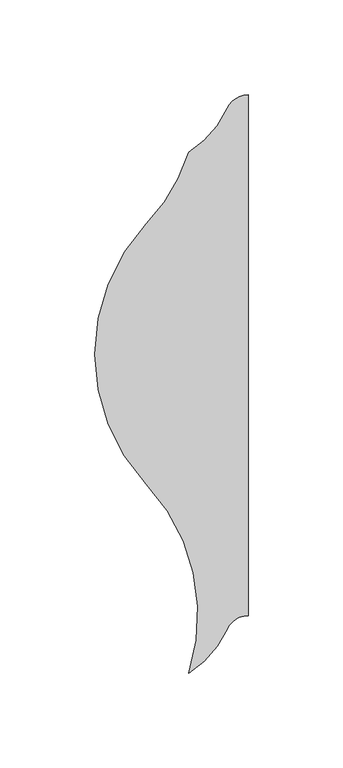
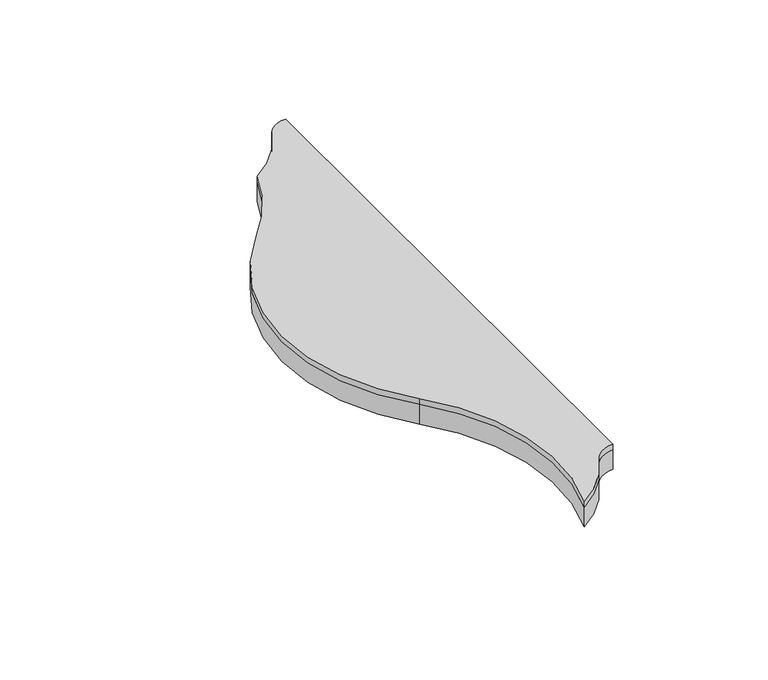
"""IFC4 building model written with IfcOpenShell, lengths in millimetres: proxy geometry, FilzFelt_Fish_Block : Fish Block."""

import ifcopenshell
import ifcopenshell.guid

model = None  # the IFC model being written
_history = None  # IfcOwnerHistory: only IFC2X3 demands one
_inside = {}  # id of a spatial element -> (the spatial element, [elements in it])
_under = {}  # id of a project, library or spatial element -> (it, [spatial elements below it])
_declared = {}  # id of a project -> (the project, [libraries it declares])
_typed = {}  # id of a type object -> (the type object, [elements of that type])
_made_of = {}  # id of a material, layer set ... -> (it, [elements and type objects made of it])


def new_model(schema):
    """Start an empty IFC model of exactly this schema.

    Asked for "IFC4X3", IfcOpenShell would pick the latest addendum, in which some entities
    have other attributes; the version numbers below select the first issue.
    IFC2X3 requires an IfcOwnerHistory on every rooted entity: one is made here for all.
    """
    global model, _history
    if schema == "IFC4X3":
        model = ifcopenshell.file(schema_version=(4, 3, 0, 0))
    else:
        model = ifcopenshell.file(schema=schema)
    _inside.clear()
    _under.clear()
    _declared.clear()
    _typed.clear()
    _made_of.clear()
    _history = None
    if model.schema == "IFC2X3":
        org = make("IfcOrganization", Name="unknown")
        user = make(
            "IfcPersonAndOrganization",
            ThePerson=make("IfcPerson", FamilyName="unknown"),
            TheOrganization=org,
        )
        app = make(
            "IfcApplication",
            ApplicationDeveloper=org,
            Version="unknown",
            ApplicationFullName="unknown",
            ApplicationIdentifier="unknown",
        )
        _history = make(
            "IfcOwnerHistory",
            OwningUser=user,
            OwningApplication=app,
            ChangeAction="ADDED",
            CreationDate=0,
        )
    return model


def make(cls, **values):
    """One entity of the class cls with the attributes given. An attribute that is None is left unset."""
    return model.create_entity(
        cls, **{name: value for name, value in values.items() if value is not None}
    )


def rooted(cls, **values):
    """An entity with a GlobalId (a new one), such as an element, a storey or a relation."""
    return make(cls, GlobalId=ifcopenshell.guid.new(), OwnerHistory=_history, **values)


def si_unit(unit_type, name, prefix=None):
    """IfcSIUnit, for example si_unit("LENGTHUNIT", "METRE", prefix="MILLI")."""
    return make("IfcSIUnit", UnitType=unit_type, Prefix=prefix, Name=name)


def assignment(units):
    """IfcUnitAssignment: the units of a project."""
    return None if units is None else make("IfcUnitAssignment", Units=units)


def point(xyz):
    """IfcCartesianPoint."""
    return None if xyz is None else make("IfcCartesianPoint", Coordinates=xyz)


def direction(xyz):
    """IfcDirection."""
    return None if xyz is None else make("IfcDirection", DirectionRatios=xyz)


def frame(location, z_axis=None, x_axis=None):
    """IfcAxis2Placement3D, a coordinate frame: its origin and axes. An axis left out is left unset."""
    return make(
        "IfcAxis2Placement3D",
        Location=point(location),
        Axis=direction(z_axis),
        RefDirection=direction(x_axis),
    )


def origin():
    """The frame at (0, 0, 0) with its axes left unset."""
    return frame((0.0, 0.0, 0.0))


def place(relative_to, where):
    """IfcLocalPlacement: puts the frame where relative to a parent placement (None: the world)."""
    return make(
        "IfcLocalPlacement", PlacementRelTo=relative_to, RelativePlacement=where
    )


def context(
    kind, dimensions, precision=None, world=None, true_north=None, identifier=None
):
    """IfcGeometricRepresentationContext, for example the 3D "Model" context."""
    return make(
        "IfcGeometricRepresentationContext",
        ContextIdentifier=identifier,
        ContextType=kind,
        CoordinateSpaceDimension=dimensions,
        Precision=precision,
        WorldCoordinateSystem=world,
        TrueNorth=true_north,
    )


def project(units=None, contexts=None):
    """IfcProject with its units and contexts."""
    return rooted(
        "IfcProject",
        Name="project",
        RepresentationContexts=contexts,
        UnitsInContext=assignment(units),
    )


def spatial(cls, under=None, at=None, **own):
    """A site, building, storey or space (cls), placed at a placement, below another one or the project."""
    s = rooted(cls, ObjectPlacement=at, **own)
    if under is not None:
        _under.setdefault(under.id(), (under, []))[1].append(s)
    return s


def polyline(points):
    """IfcPolyline through the points."""
    return make("IfcPolyline", Points=[point(p) for p in points])


def circle_curve(where, radius):
    """IfcCircle in the frame where."""
    return make("IfcCircle", Position=where, Radius=radius)


def shape(context_of_items, identifier, shape_type, items):
    """IfcShapeRepresentation: the items that make up one representation, for example the "Body"."""
    return make(
        "IfcShapeRepresentation",
        ContextOfItems=context_of_items,
        RepresentationIdentifier=identifier,
        RepresentationType=shape_type,
        Items=items,
    )


def source(mapping_origin, context_of_items, identifier, shape_type, items):
    """IfcRepresentationMap: a shape defined once, which mapped items show again and again."""
    return make(
        "IfcRepresentationMap",
        MappingOrigin=mapping_origin,
        MappedRepresentation=shape(context_of_items, identifier, shape_type, items),
    )


def transform(
    local_origin,
    x_axis=None,
    y_axis=None,
    z_axis=None,
    scale=None,
    scale2=None,
    scale3=None,
    uniform=True,
):
    """IfcCartesianTransformationOperator3D, or its non-uniform kind. x_axis, y_axis, z_axis: its Axis1, 2, 3."""
    if uniform:
        return make(
            "IfcCartesianTransformationOperator3D",
            Axis1=direction(x_axis),
            Axis2=direction(y_axis),
            LocalOrigin=point(local_origin),
            Scale=scale,
            Axis3=direction(z_axis),
        )
    return make(
        "IfcCartesianTransformationOperator3DnonUniform",
        Axis1=direction(x_axis),
        Axis2=direction(y_axis),
        LocalOrigin=point(local_origin),
        Scale=scale,
        Axis3=direction(z_axis),
        Scale2=scale2,
        Scale3=scale3,
    )


def mapped(mapping_source, mapping_target):
    """IfcMappedItem: shows the shape of a source again, moved by a transform."""
    return make(
        "IfcMappedItem", MappingSource=mapping_source, MappingTarget=mapping_target
    )


def made_of(thing, what):
    """Note that an element or type object is made of a material, layer set ...; save() writes the relation."""
    if what is not None:
        _made_of.setdefault(what.id(), (what, []))[1].append(thing)
    return thing


def element(
    cls,
    number,
    at=None,
    inside=None,
    cuts=None,
    type_object=None,
    material=None,
    context=None,
    identifier="Body",
    shape_type=None,
    held_by="IfcProductDefinitionShape",
    body=None,
    shapes=None,
    **own,
):
    """One element of the class cls, such as IfcWall. Its Tag is "e" and its number.

    at: its placement. inside: the storey or other place that contains it. cuts: it is an
    opening in that element (IfcRelVoidsElement). A single representation is given by context,
    identifier, shape_type and body (its items); several are given by shapes. held_by: the class
    of the entity that holds the representations. save() writes the other relations.
    """
    e = rooted(cls, Tag="e%d" % number, ObjectPlacement=at, **own)
    if body is not None:
        shapes = [shape(context, identifier, shape_type, body)]
    if shapes is not None:
        e.Representation = make(held_by, Representations=shapes)
    if inside is not None:
        _inside.setdefault(inside.id(), (inside, []))[1].append(e)
    if cuts is not None:
        rooted(
            "IfcRelVoidsElement", RelatingBuildingElement=cuts, RelatedOpeningElement=e
        )
    if type_object is not None:
        _typed.setdefault(type_object.id(), (type_object, []))[1].append(e)
    return made_of(e, material)


def aggregate(whole, parts):
    """IfcRelAggregates: a whole, such as a stair, and the parts it consists of."""
    return rooted("IfcRelAggregates", RelatingObject=whole, RelatedObjects=parts)


def save(model, path):
    """Write the relations noted so far, then the file.

    IfcRelAggregates (storeys below a building ...), IfcRelContainedInSpatialStructure (elements
    in a storey), IfcRelDefinesByType, IfcRelAssociatesMaterial and IfcRelDeclares: one each for
    every whole, place, type object, material and project.
    """
    for whole, parts in _under.values():
        aggregate(whole, parts)
    for where, things in _inside.values():
        rooted(
            "IfcRelContainedInSpatialStructure",
            RelatedElements=things,
            RelatingStructure=where,
        )
    for kind, things in _typed.values():
        rooted("IfcRelDefinesByType", RelatedObjects=things, RelatingType=kind)
    for what, things in _made_of.values():
        rooted("IfcRelAssociatesMaterial", RelatedObjects=things, RelatingMaterial=what)
    for by, libraries in _declared.values():
        rooted("IfcRelDeclares", RelatingContext=by, RelatedDefinitions=libraries)
    model.write(path)


def plane_surface(at):
    """IfcPlane: the flat surface through the origin of the frame at, square to its z axis."""
    return make("IfcPlane", Position=at)


def cylinder_surface(at, radius):
    """IfcCylindricalSurface: all points at the distance radius from the z axis of the frame at."""
    return make("IfcCylindricalSurface", Position=at, Radius=radius)


def revolved_surface(curve, axis_point, axis_direction):
    """IfcSurfaceOfRevolution: the curve turned about the line through axis_point along axis_direction."""
    return make(
        "IfcSurfaceOfRevolution",
        SweptCurve=make("IfcArbitraryOpenProfileDef", ProfileType="CURVE", Curve=curve),
        AxisPosition=make("IfcAxis1Placement", Location=point(axis_point), Axis=direction(axis_direction)),
    )


def advanced_brep(points, edges, surfaces, faces):
    """IfcAdvancedBrep: a solid bounded by faces that lie on surfaces and meet in shared edges.

    An edge is (start, end): straight between two places in points (the first is 0);
    or (start, end, curve); or (start, end, curve, False) where it runs against its curve.
    A face is (place in surfaces, loops), or (place, loops, False) where it looks against
    its surface's normal. A loop lists edges by number (the first is 1), with a minus sign
    where the edge is run from its end to its start. The first loop is the outer one.
    """
    corners = [point(p) for p in points]
    vertices = [make("IfcVertexPoint", VertexGeometry=c) for c in corners]
    made = []
    for start, end, *more in edges:
        made.append(
            make(
                "IfcEdgeCurve",
                EdgeStart=vertices[start],
                EdgeEnd=vertices[end],
                EdgeGeometry=more[0] if more else make("IfcPolyline", Points=[corners[start], corners[end]]),
                SameSense=more[1] if len(more) > 1 else True,
            )
        )
    hull = []
    for where, loops, *sense in faces:
        bounds = []
        for j, loop in enumerate(loops):
            ring = [make("IfcOrientedEdge", EdgeElement=made[abs(k) - 1], Orientation=k > 0) for k in loop]
            bounds.append(
                make(
                    "IfcFaceOuterBound" if j == 0 else "IfcFaceBound",
                    Bound=make("IfcEdgeLoop", EdgeList=ring),
                    Orientation=True,
                )
            )
        hull.append(make("IfcAdvancedFace", Bounds=bounds, FaceSurface=surfaces[where], SameSense=sense[0] if sense else True))
    return make("IfcAdvancedBrep", Outer=make("IfcClosedShell", CfsFaces=hull))


def specialty_equipment_aaa09293(model_context):
    return source(origin(), model_context, "Body", "AdvancedBrep", [
        advanced_brep(
        [(-11.0103348, -145.0347036, 10.0210937), (-31.2619065, -168.1141956, 10.0210937), (-53.5486457, -68.6120133, 10.0210937), (-80.7142226, 0.0, 10.0210937), (-53.5486457, 68.6120133, 10.0210937), (-31.2619065, 106.3338576, 10.0210937), (-11.0103348, 129.4133496, 10.0210937), (0.0, 136.5838795, 10.0210937), (0.0, -137.8641736, 10.0210937), (-11.0103348, 129.4133496, 12.9976563), (-31.2619065, 106.3338576, 12.9976563), (-53.5486457, 68.6120133, 12.9976563), (-80.7142226, 0.0, 12.9976563), (-53.5486457, -68.6120133, 12.9976563), (-31.2619065, -168.1141956, 12.9976563), (-11.0103348, -145.0347036, 12.9976563), (0.0, -137.8641736, 12.9976563), (0.0, 136.5838795, 12.9976563)],
        [
            (0, 1, circle_curve(frame((-57.9263497, -124.2921115, 10.0210937), z_axis=(0.0, 0.0, -1.0), x_axis=(-1.0, 0.0, 0.0)), 51.2968574)),
            (1, 2, circle_curve(frame((-126.6124317, -137.2240266, 10.0210937), z_axis=(0.0, 0.0, 1.0), x_axis=(-1.0, 0.0, 0.0)), 100.2293629)),
            (2, 3, circle_curve(frame((19.5151403, 0.0, 10.0210937), z_axis=(0.0, 0.0, -1.0), x_axis=(-1.0, 0.0, 0.0)), 100.2293629)),
            (3, 4, circle_curve(frame((19.5151403, 0.0, 10.0210937), z_axis=(0.0, 0.0, -1.0), x_axis=(-1.0, 0.0, 0.0)), 100.2293629)),
            (4, 5, circle_curve(frame((-126.6124317, 137.2240266, 10.0210937), z_axis=(0.0, 0.0, 1.0), x_axis=(-1.0, 0.0, 0.0)), 100.2293629)),
            (5, 6, circle_curve(frame((-57.9263497, 150.1559416, 10.0210937), z_axis=(0.0, 0.0, 1.0), x_axis=(-1.0, 0.0, 0.0)), 51.2968574)),
            (6, 7, circle_curve(frame((0.0, 124.5454408, 10.0210937), z_axis=(0.0, 0.0, -1.0), x_axis=(-1.0, 0.0, 0.0)), 12.0384388)),
            (7, 8),
            (8, 0, circle_curve(frame((0.0, -149.9026124, 10.0210937), z_axis=(0.0, 0.0, 1.0), x_axis=(-1.0, 0.0, 0.0)), 12.0384388)),
            (9, 10, circle_curve(frame((-57.9263497, 150.1559416, 12.9976563), z_axis=(0.0, 0.0, -1.0), x_axis=(-1.0, 0.0, 0.0)), 51.2968574)),
            (10, 11, circle_curve(frame((-126.6124317, 137.2240266, 12.9976563), z_axis=(0.0, 0.0, -1.0), x_axis=(-1.0, 0.0, 0.0)), 100.2293629)),
            (11, 12, circle_curve(frame((19.5151403, 0.0, 12.9976563), z_axis=(0.0, 0.0, 1.0), x_axis=(-1.0, 0.0, 0.0)), 100.2293629)),
            (12, 13, circle_curve(frame((19.5151403, 0.0, 12.9976563), z_axis=(0.0, 0.0, 1.0), x_axis=(-1.0, 0.0, 0.0)), 100.2293629)),
            (13, 14, circle_curve(frame((-126.6124317, -137.2240266, 12.9976563), z_axis=(0.0, 0.0, -1.0), x_axis=(-1.0, 0.0, 0.0)), 100.2293629)),
            (14, 15, circle_curve(frame((-57.9263497, -124.2921115, 12.9976563), z_axis=(0.0, 0.0, 1.0), x_axis=(-1.0, 0.0, 0.0)), 51.2968574)),
            (15, 16, circle_curve(frame((0.0, -149.9026124, 12.9976563), z_axis=(0.0, 0.0, -1.0), x_axis=(-1.0, 0.0, 0.0)), 12.0384388)),
            (16, 17),
            (17, 9, circle_curve(frame((0.0, 124.5454408, 12.9976563), z_axis=(0.0, 0.0, 1.0), x_axis=(-1.0, 0.0, 0.0)), 12.0384388)),
            (15, 0),
            (8, 16),
            (14, 1),
            (13, 2),
            (11, 4),
            (10, 5),
            (9, 6),
            (17, 7),
        ],
        [
            plane_surface(frame((0.0, 0.0, 10.0210937), z_axis=(0.0, 0.0, -1.0), x_axis=(0.0, -1.0, 0.0))),
            plane_surface(frame((0.0, 0.0, 12.9976563), z_axis=(0.0, 0.0, 1.0), x_axis=(0.0, -1.0, 0.0))),
            revolved_surface(polyline([(-12.0384388, -149.9026124, 12.9976563), (-12.0384388, -149.9026124, 10.0210937)]), (0.0, -149.9026124, 10.0210937), (0.0, 0.0, 1.0)),
            cylinder_surface(frame((-57.9263497, -124.2921115, 10.0210937), z_axis=(0.0, 0.0, -1.0), x_axis=(-1.0, 0.0, 0.0)), 51.2968574),
            revolved_surface(polyline([(-226.84179460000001, -137.2240266, 12.9976563), (-226.84179460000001, -137.2240266, 10.0210937)]), (-126.6124317, -137.2240266, 10.0210937), (0.0, 0.0, 1.0)),
            cylinder_surface(frame((19.5151403, 0.0, 10.0210937), z_axis=(0.0, 0.0, -1.0), x_axis=(-1.0, 0.0, 0.0)), 100.2293629),
            revolved_surface(polyline([(-226.84179460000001, 137.2240266, 12.9976563), (-226.84179460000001, 137.2240266, 10.0210937)]), (-126.6124317, 137.2240266, 10.0210937), (0.0, 0.0, 1.0)),
            revolved_surface(polyline([(-109.2232071, 150.1559416, 12.9976563), (-109.2232071, 150.1559416, 10.0210937)]), (-57.9263497, 150.1559416, 10.0210937), (0.0, 0.0, 1.0)),
            cylinder_surface(frame((0.0, 124.5454408, 10.0210937), z_axis=(0.0, 0.0, -1.0), x_axis=(-1.0, 0.0, 0.0)), 12.0384388),
            plane_surface(frame((0.0, -199.8641956, 12.9976562), z_axis=(1.0, 0.0, 0.0), x_axis=(0.0, 0.0, 1.0))),
        ],
        [
            (0, [[1, 2, 3, 4, 5, 6, 7, 8, 9]]),
            (1, [[10, 11, 12, 13, 14, 15, 16, 17, 18]]),
            (2, [[19, -9, 20, -16]]),
            (3, [[-1, -19, -15, 21]]),
            (4, [[-2, -21, -14, 22]]),
            (5, [[-22, -13, -12, 23, -4, -3]]),
            (6, [[-5, -23, -11, 24]]),
            (7, [[-6, -24, -10, 25]]),
            (8, [[-25, -18, 26, -7]]),
            (9, [[-8, -26, -17, -20]]),
        ],
    ),
        advanced_brep(
        [(-11.0103348, -145.0347036, 0.0), (-31.2619065, -168.1141956, 0.0), (-53.5486457, -68.6120133, 0.0), (-80.7142226, 0.0, 0.0), (-53.5486457, 68.6120133, 0.0), (-31.2619065, 106.3338576, 0.0), (-11.0103348, 129.4133496, 0.0), (0.0, 136.5838795, 0.0), (0.0, -137.8641736, 0.0), (-11.0103348, 129.4133496, 10.0210937), (-31.2619065, 106.3338576, 10.0210937), (-53.5486457, 68.6120133, 10.0210937), (-80.7142226, 0.0, 10.0210937), (-53.5486457, -68.6120133, 10.0210937), (-31.2619065, -168.1141956, 10.0210937), (-11.0103348, -145.0347036, 10.0210937), (0.0, -137.8641736, 10.0210937), (0.0, 136.5838795, 10.0210937)],
        [
            (0, 1, circle_curve(frame((-57.9263497, -124.2921115, 0.0), z_axis=(0.0, 0.0, -1.0), x_axis=(-1.0, 0.0, 0.0)), 51.2968574)),
            (1, 2, circle_curve(frame((-126.6124317, -137.2240266, 0.0), z_axis=(0.0, 0.0, 1.0), x_axis=(-1.0, 0.0, 0.0)), 100.2293629)),
            (2, 3, circle_curve(frame((19.5151403, 0.0, 0.0), z_axis=(0.0, 0.0, -1.0), x_axis=(-1.0, 0.0, 0.0)), 100.2293629)),
            (3, 4, circle_curve(frame((19.5151403, 0.0, 0.0), z_axis=(0.0, 0.0, -1.0), x_axis=(-1.0, 0.0, 0.0)), 100.2293629)),
            (4, 5, circle_curve(frame((-126.6124317, 137.2240266, 0.0), z_axis=(0.0, 0.0, 1.0), x_axis=(-1.0, 0.0, 0.0)), 100.2293629)),
            (5, 6, circle_curve(frame((-57.9263497, 150.1559416, 0.0), z_axis=(0.0, 0.0, 1.0), x_axis=(-1.0, 0.0, 0.0)), 51.2968574)),
            (6, 7, circle_curve(frame((0.0, 124.5454408, 0.0), z_axis=(0.0, 0.0, -1.0), x_axis=(-1.0, 0.0, 0.0)), 12.0384388)),
            (7, 8),
            (8, 0, circle_curve(frame((0.0, -149.9026124, 0.0), z_axis=(0.0, 0.0, 1.0), x_axis=(-1.0, 0.0, 0.0)), 12.0384388)),
            (9, 10, circle_curve(frame((-57.9263497, 150.1559416, 10.0210937), z_axis=(0.0, 0.0, -1.0), x_axis=(-1.0, 0.0, 0.0)), 51.2968574)),
            (10, 11, circle_curve(frame((-126.6124317, 137.2240266, 10.0210937), z_axis=(0.0, 0.0, -1.0), x_axis=(-1.0, 0.0, 0.0)), 100.2293629)),
            (11, 12, circle_curve(frame((19.5151403, 0.0, 10.0210937), z_axis=(0.0, 0.0, 1.0), x_axis=(-1.0, 0.0, 0.0)), 100.2293629)),
            (12, 13, circle_curve(frame((19.5151403, 0.0, 10.0210937), z_axis=(0.0, 0.0, 1.0), x_axis=(-1.0, 0.0, 0.0)), 100.2293629)),
            (13, 14, circle_curve(frame((-126.6124317, -137.2240266, 10.0210937), z_axis=(0.0, 0.0, -1.0), x_axis=(-1.0, 0.0, 0.0)), 100.2293629)),
            (14, 15, circle_curve(frame((-57.9263497, -124.2921115, 10.0210937), z_axis=(0.0, 0.0, 1.0), x_axis=(-1.0, 0.0, 0.0)), 51.2968574)),
            (15, 16, circle_curve(frame((0.0, -149.9026124, 10.0210937), z_axis=(0.0, 0.0, -1.0), x_axis=(-1.0, 0.0, 0.0)), 12.0384388)),
            (16, 17),
            (17, 9, circle_curve(frame((0.0, 124.5454408, 10.0210937), z_axis=(0.0, 0.0, 1.0), x_axis=(-1.0, 0.0, 0.0)), 12.0384388)),
            (15, 0),
            (8, 16),
            (14, 1),
            (13, 2),
            (11, 4),
            (10, 5),
            (9, 6),
            (17, 7),
        ],
        [
            plane_surface(frame((0.0, 0.0, 0.0), z_axis=(0.0, 0.0, -1.0), x_axis=(0.0, -1.0, 0.0))),
            plane_surface(frame((0.0, 0.0, 10.0210937), z_axis=(0.0, 0.0, 1.0), x_axis=(0.0, -1.0, 0.0))),
            revolved_surface(polyline([(-12.0384388, -149.9026124, 10.0210937), (-12.0384388, -149.9026124, 0.0)]), (0.0, -149.9026124, 0.0), (0.0, 0.0, 1.0)),
            cylinder_surface(frame((-57.9263497, -124.2921115, 0.0), z_axis=(0.0, 0.0, -1.0), x_axis=(-1.0, 0.0, 0.0)), 51.2968574),
            revolved_surface(polyline([(-226.84179460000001, -137.2240266, 10.0210937), (-226.84179460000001, -137.2240266, 0.0)]), (-126.6124317, -137.2240266, 0.0), (0.0, 0.0, 1.0)),
            cylinder_surface(frame((19.5151403, 0.0, 0.0), z_axis=(0.0, 0.0, -1.0), x_axis=(-1.0, 0.0, 0.0)), 100.2293629),
            revolved_surface(polyline([(-226.84179460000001, 137.2240266, 10.0210937), (-226.84179460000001, 137.2240266, 0.0)]), (-126.6124317, 137.2240266, 0.0), (0.0, 0.0, 1.0)),
            revolved_surface(polyline([(-109.2232071, 150.1559416, 10.0210937), (-109.2232071, 150.1559416, 0.0)]), (-57.9263497, 150.1559416, 0.0), (0.0, 0.0, 1.0)),
            cylinder_surface(frame((0.0, 124.5454408, 0.0), z_axis=(0.0, 0.0, -1.0), x_axis=(-1.0, 0.0, 0.0)), 12.0384388),
            plane_surface(frame((0.0, -199.8641956, 12.9976562), z_axis=(1.0, 0.0, 0.0), x_axis=(0.0, 0.0, 1.0))),
        ],
        [
            (0, [[1, 2, 3, 4, 5, 6, 7, 8, 9]]),
            (1, [[10, 11, 12, 13, 14, 15, 16, 17, 18]]),
            (2, [[19, -9, 20, -16]]),
            (3, [[-1, -19, -15, 21]]),
            (4, [[-2, -21, -14, 22]]),
            (5, [[-22, -13, -12, 23, -4, -3]]),
            (6, [[-5, -23, -11, 24]]),
            (7, [[-6, -24, -10, 25]]),
            (8, [[-25, -18, 26, -7]]),
            (9, [[-8, -26, -17, -20]]),
        ],
    ),
    ])


if __name__ == "__main__":
    model = new_model("IFC4")
    model_context = context("Model", 3, world=origin())
    ifc_project = project(units=[si_unit("LENGTHUNIT", "METRE", prefix="MILLI")], contexts=[model_context])
    site = spatial("IfcSite", under=ifc_project)
    building = spatial("IfcBuilding", under=site)
    placement = place(None, origin())
    specialty_equipment_shape = specialty_equipment_aaa09293(model_context)
    element("IfcBuildingElementProxy", 1, Name="FilzFelt_Fish_Block : Fish Block", ObjectType="FilzFelt_Fish_Block : Fish Block", at=placement, inside=building, context=model_context, shape_type="MappedRepresentation", body=[
        mapped(specialty_equipment_shape, transform((0.0, 0.0, 0.0), x_axis=(1.0, 0.0, 0.0), y_axis=(0.0, 1.0, 0.0), z_axis=(0.0, 0.0, 1.0))),
    ])
    save(model, "model.ifc")
